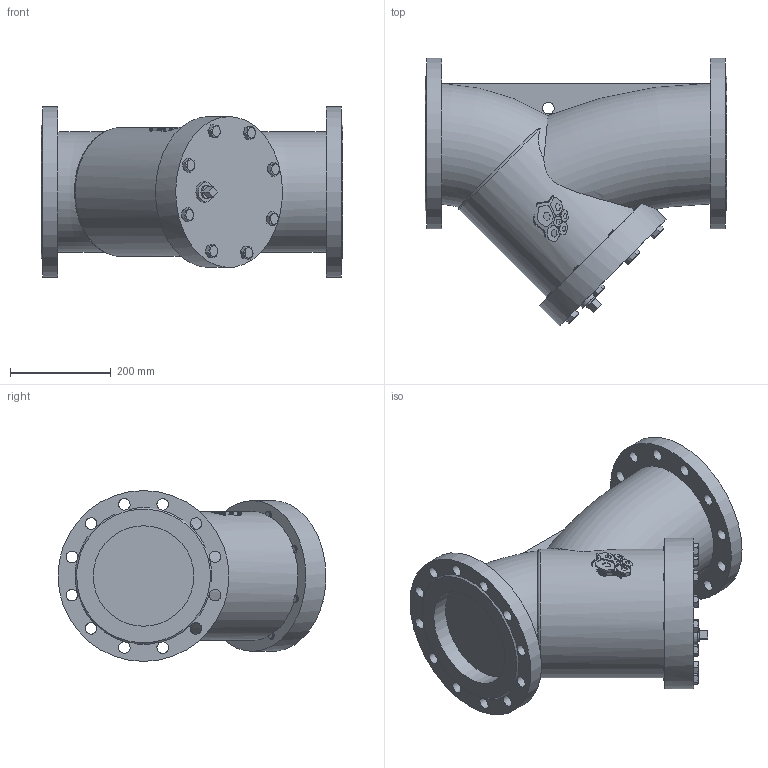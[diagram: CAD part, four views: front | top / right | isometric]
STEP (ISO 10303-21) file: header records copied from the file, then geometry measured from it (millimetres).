
FILE_DESCRIPTION(('STEP AP203'), '1');
FILE_NAME('3D_600_601-200-16_1,6', '', ('UNSPECIFIED'), ('UNSPECIFIED'), 'C3D Converter', 'C3D Toolkit', '');
FILE_SCHEMA(('CONFIG_CONTROL_DESIGN'));
Length unit declared in the file: millimetre
Bounding box: 600 x 532.93 x 340 mm (x, y, z)
Volume: 38081297.1 mm3; surface area: 1038538.8 mm2
Topology: 1 solids, 1 shells, 993 faces, 2955 edges, 1979 vertices
Faces by surface type: plane 915, cylinder 48, cone 19, torus 11
Full cylindrical faces by diameter (mm): 23 x25, 26 x1, 40 x1, 200 x2, 300 x1, 340 x2
Entity records: 44663 total; most frequent: CARTESIAN_POINT 12257, ORIENTED_EDGE 5810, DIRECTION 4256, EDGE_CURVE 2905, VERTEX_POINT 1979, LINE 1770, VECTOR 1770, AXIS2_PLACEMENT_3D 1243
